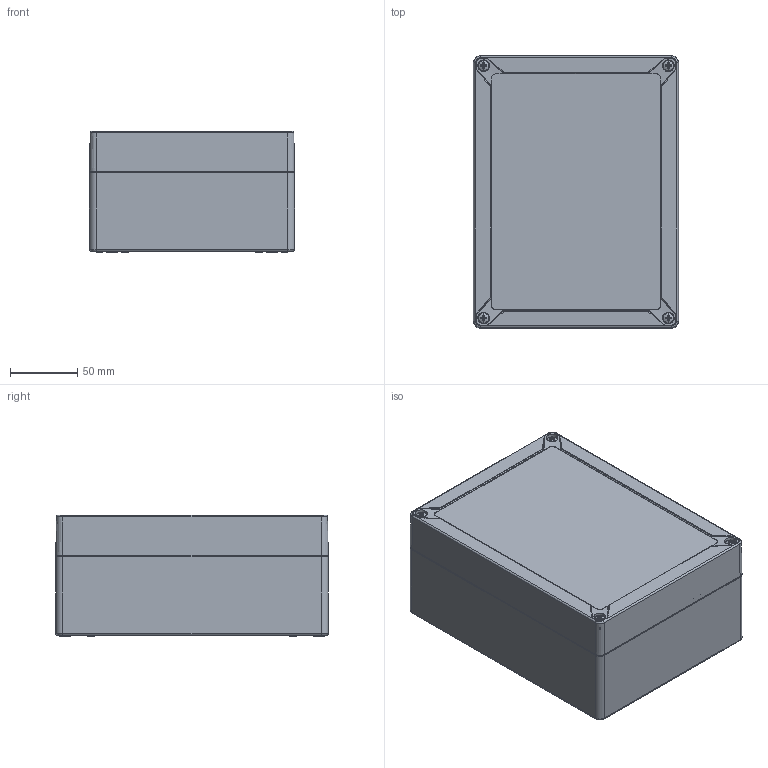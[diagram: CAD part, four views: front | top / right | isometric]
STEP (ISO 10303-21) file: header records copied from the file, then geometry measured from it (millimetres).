
FILE_DESCRIPTION (( 'STEP AP214' ), '1' );
FILE_NAME ('SG-14-03.STEP', '2026-02-27T17:32:52', ( '' ), ( '' ), 'SwSTEP 2.0', 'SolidWorks 2025', '' );
FILE_SCHEMA (( 'AUTOMOTIVE_DESIGN' ));
Length unit declared in the file: inch
Products named in the file (7): SG-97S; SCREWS-019_SCREWS-19; SCREWS-022_SCREWS-022; SG-14B_SG-14B-02; SG-KIT-02; SG-14C_SG-14C-03; SG-14-03
Assembly tree (13 placements, depth 3):
  SG-14-03
    SG-14B_SG-14B-02
    SG-14C_SG-14C-03
    SG-KIT-02
      SCREWS-019_SCREWS-19  x4
      SCREWS-022_SCREWS-022  x4
      SG-97S  x2
Bounding box: 152 x 202 x 90 mm (x, y, z)
Volume: 410450.7 mm3; surface area: 295606.9 mm2
Topology: 9 solids, 13 shells, 2909 faces, 7170 edges, 4279 vertices
Faces by surface type: cylinder 913, plane 871, bspline 583, torus 274, cone 172, sphere 96
Entity records: 71113 total; most frequent: CARTESIAN_POINT 29262, ORIENTED_EDGE 9042, DIRECTION 8355, EDGE_CURVE 4521, AXIS2_PLACEMENT_3D 3083, VERTEX_POINT 2817, VECTOR 2189, LINE 2189
